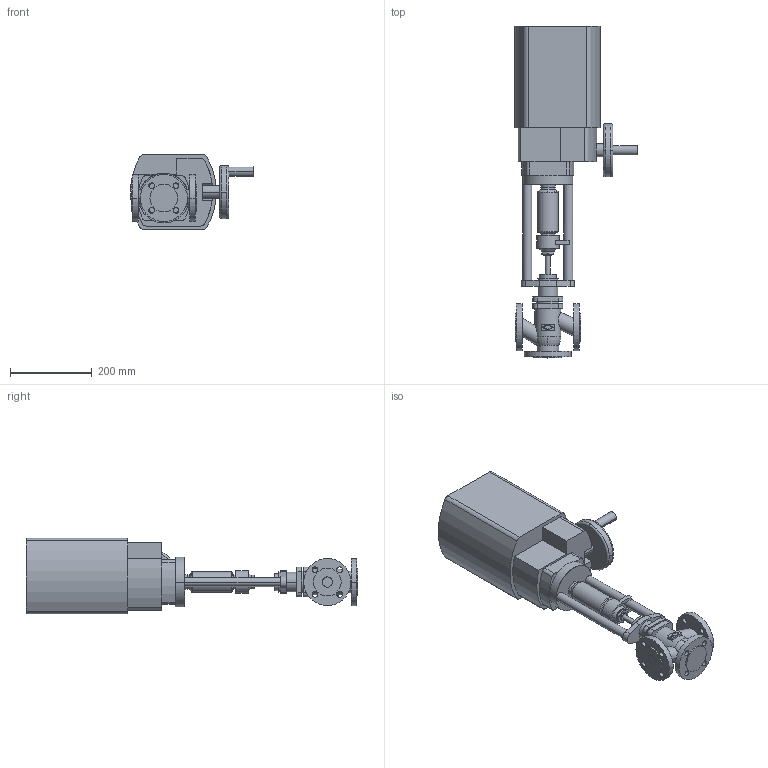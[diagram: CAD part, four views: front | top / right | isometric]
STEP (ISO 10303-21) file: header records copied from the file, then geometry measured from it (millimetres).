
FILE_DESCRIPTION( ( '' ), '1' );
FILE_NAME( 'F:/DE-SHS/TB/OR/04-Sonstiges/daten/files_3d/450-PREMIO-Plus-2G/c000006517.stp', '2017-02-22T12:50:25', ( '' ), ( '' ), ' ', ' ', ' ' );
FILE_SCHEMA( ( 'CONFIG_CONTROL_DESIGN' ) );
Length unit declared in the file: millimetre
Products named in the file (2): 1; 2
Bounding box: 300.38 x 812 x 184 mm (x, y, z)
Volume: 13628287.2 mm3; surface area: 576020.2 mm2
Topology: 2 solids, 2 shells, 237 faces, 594 edges, 391 vertices
Faces by surface type: cylinder 112, plane 103, torus 14, cone 8
Entity records: 7605 total; most frequent: CARTESIAN_POINT 1499, DIRECTION 1367, ORIENTED_EDGE 1188, EDGE_CURVE 594, AXIS2_PLACEMENT_3D 543, VERTEX_POINT 391, CIRCLE 300, EDGE_LOOP 291
